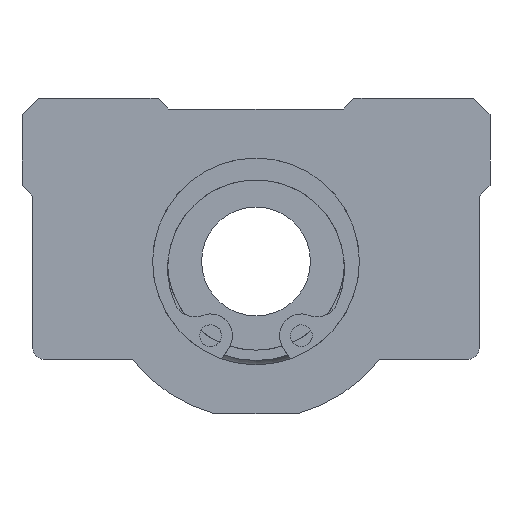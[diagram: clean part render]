
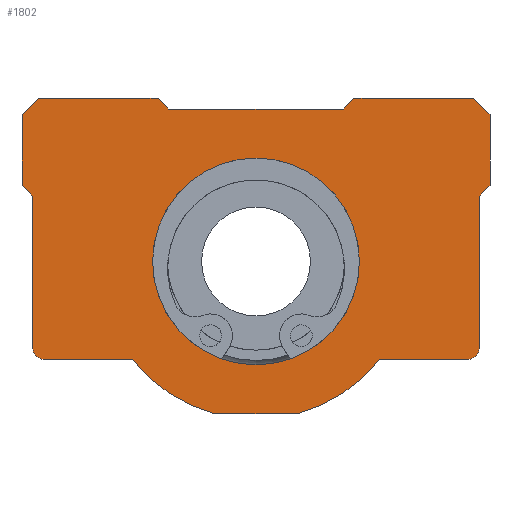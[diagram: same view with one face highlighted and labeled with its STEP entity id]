
A CAD part, left-side view. The second image highlights one B-rep face of the part: STEP entity #1802.
In plain terms, the highlighted planar face has unit normal (-1, 0, 0).
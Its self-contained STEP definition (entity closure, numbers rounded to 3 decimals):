
#1370=CARTESIAN_POINT('',(0.0,19.5,-9.));
#1371=VERTEX_POINT('',#1370);
#1378=CARTESIAN_POINT('',(0.0,20.5,-8.));
#1379=VERTEX_POINT('',#1378);
#1380=CARTESIAN_POINT('',(0.0,19.5,-8.));
#1381=DIRECTION('',(1.,0.0,0.0));
#1382=DIRECTION('',(0.0,0.707,-0.707));
#1383=AXIS2_PLACEMENT_3D('',#1380,#1381,#1382);
#1384=CIRCLE('',#1383,1.);
#1385=EDGE_CURVE('',#1371,#1379,#1384,.T.);
#1410=CARTESIAN_POINT('',(0.0,11.369,-9.));
#1411=VERTEX_POINT('',#1410);
#1418=CARTESIAN_POINT('',(0.0,11.369,-9.));
#1419=DIRECTION('',(0.0,1.0,0.0));
#1420=VECTOR('',#1419,8.131);
#1421=LINE('',#1418,#1420);
#1422=EDGE_CURVE('',#1411,#1371,#1421,.T.);
#1621=CARTESIAN_POINT('',(0.0,-20.5,-8.));
#1622=VERTEX_POINT('',#1621);
#1629=CARTESIAN_POINT('',(0.0,-19.5,-9.));
#1630=VERTEX_POINT('',#1629);
#1631=CARTESIAN_POINT('',(0.0,-19.5,-8.));
#1632=DIRECTION('',(1.0,0.0,0.0));
#1633=DIRECTION('',(0.0,-0.707,-0.707));
#1634=AXIS2_PLACEMENT_3D('',#1631,#1632,#1633);
#1635=CIRCLE('',#1634,1.0);
#1636=EDGE_CURVE('',#1622,#1630,#1635,.T.);
#1647=CARTESIAN_POINT('',(0.0,0.,1.785));
#1648=DIRECTION('',(1.0,0.0,0.0));
#1649=DIRECTION('',(0.0,0.0,-1.0));
#1650=AXIS2_PLACEMENT_3D('',#1647,#1648,#1649);
#1651=PLANE('',#1650);
#1652=ORIENTED_EDGE('',*,*,#1385,.F.);
#1653=ORIENTED_EDGE('',*,*,#1422,.F.);
#1654=CARTESIAN_POINT('',(0.0,3.775,-14.));
#1655=VERTEX_POINT('',#1654);
#1656=CARTESIAN_POINT('',(0.0,0.0,0.0));
#1657=DIRECTION('',(1.0,0.0,0.0));
#1658=DIRECTION('',(0.0,0.26,-0.966));
#1659=AXIS2_PLACEMENT_3D('',#1656,#1657,#1658);
#1660=CIRCLE('',#1659,14.5);
#1661=EDGE_CURVE('',#1655,#1411,#1660,.T.);
#1662=ORIENTED_EDGE('',*,*,#1661,.F.);
#1663=CARTESIAN_POINT('',(0.0,-3.775,-14.));
#1664=VERTEX_POINT('',#1663);
#1665=CARTESIAN_POINT('',(0.0,-3.775,-14.));
#1666=DIRECTION('',(0.0,1.0,0.0));
#1667=VECTOR('',#1666,7.55);
#1668=LINE('',#1665,#1667);
#1669=EDGE_CURVE('',#1664,#1655,#1668,.T.);
#1670=ORIENTED_EDGE('',*,*,#1669,.F.);
#1671=CARTESIAN_POINT('',(0.0,-11.369,-9.));
#1672=VERTEX_POINT('',#1671);
#1673=CARTESIAN_POINT('',(0.0,0.0,0.0));
#1674=DIRECTION('',(1.0,0.0,0.0));
#1675=DIRECTION('',(0.0,0.26,-0.966));
#1676=AXIS2_PLACEMENT_3D('',#1673,#1674,#1675);
#1677=CIRCLE('',#1676,14.5);
#1678=EDGE_CURVE('',#1672,#1664,#1677,.T.);
#1679=ORIENTED_EDGE('',*,*,#1678,.F.);
#1680=CARTESIAN_POINT('',(0.0,-19.5,-9.));
#1681=DIRECTION('',(0.0,1.0,0.0));
#1682=VECTOR('',#1681,8.131);
#1683=LINE('',#1680,#1682);
#1684=EDGE_CURVE('',#1630,#1672,#1683,.T.);
#1685=ORIENTED_EDGE('',*,*,#1684,.F.);
#1686=ORIENTED_EDGE('',*,*,#1636,.F.);
#1687=CARTESIAN_POINT('',(0.0,-20.5,6.));
#1688=VERTEX_POINT('',#1687);
#1689=CARTESIAN_POINT('',(0.0,-20.5,6.));
#1690=DIRECTION('',(0.0,0.0,-1.0));
#1691=VECTOR('',#1690,14.);
#1692=LINE('',#1689,#1691);
#1693=EDGE_CURVE('',#1688,#1622,#1692,.T.);
#1694=ORIENTED_EDGE('',*,*,#1693,.F.);
#1695=CARTESIAN_POINT('',(0.0,-21.5,7.));
#1696=VERTEX_POINT('',#1695);
#1697=CARTESIAN_POINT('',(0.0,-21.5,7.));
#1698=DIRECTION('',(0.0,0.707,-0.707));
#1699=VECTOR('',#1698,1.414);
#1700=LINE('',#1697,#1699);
#1701=EDGE_CURVE('',#1696,#1688,#1700,.T.);
#1702=ORIENTED_EDGE('',*,*,#1701,.F.);
#1703=CARTESIAN_POINT('',(0.0,-21.5,13.5));
#1704=VERTEX_POINT('',#1703);
#1705=CARTESIAN_POINT('',(0.0,-21.5,13.5));
#1706=DIRECTION('',(0.0,0.0,-1.0));
#1707=VECTOR('',#1706,6.5);
#1708=LINE('',#1705,#1707);
#1709=EDGE_CURVE('',#1704,#1696,#1708,.T.);
#1710=ORIENTED_EDGE('',*,*,#1709,.F.);
#1711=CARTESIAN_POINT('',(0.0,-20.,15.));
#1712=VERTEX_POINT('',#1711);
#1713=CARTESIAN_POINT('',(0.0,-20.,15.));
#1714=DIRECTION('',(0.0,-0.707,-0.707));
#1715=VECTOR('',#1714,2.121);
#1716=LINE('',#1713,#1715);
#1717=EDGE_CURVE('',#1712,#1704,#1716,.T.);
#1718=ORIENTED_EDGE('',*,*,#1717,.F.);
#1719=CARTESIAN_POINT('',(0.0,-9.0,15.));
#1720=VERTEX_POINT('',#1719);
#1721=CARTESIAN_POINT('',(0.0,-9.0,15.));
#1722=DIRECTION('',(0.0,-1.0,0.0));
#1723=VECTOR('',#1722,11.);
#1724=LINE('',#1721,#1723);
#1725=EDGE_CURVE('',#1720,#1712,#1724,.T.);
#1726=ORIENTED_EDGE('',*,*,#1725,.F.);
#1727=CARTESIAN_POINT('',(0.0,-8.,14.));
#1728=VERTEX_POINT('',#1727);
#1729=CARTESIAN_POINT('',(0.0,-8.,14.));
#1730=DIRECTION('',(0.0,-0.707,0.707));
#1731=VECTOR('',#1730,1.414);
#1732=LINE('',#1729,#1731);
#1733=EDGE_CURVE('',#1728,#1720,#1732,.T.);
#1734=ORIENTED_EDGE('',*,*,#1733,.F.);
#1735=CARTESIAN_POINT('',(0.0,8.,14.));
#1736=VERTEX_POINT('',#1735);
#1737=CARTESIAN_POINT('',(0.0,8.,14.));
#1738=DIRECTION('',(0.0,-1.0,0.0));
#1739=VECTOR('',#1738,16.);
#1740=LINE('',#1737,#1739);
#1741=EDGE_CURVE('',#1736,#1728,#1740,.T.);
#1742=ORIENTED_EDGE('',*,*,#1741,.F.);
#1743=CARTESIAN_POINT('',(0.0,9.0,15.));
#1744=VERTEX_POINT('',#1743);
#1745=CARTESIAN_POINT('',(0.0,9.0,15.));
#1746=DIRECTION('',(0.0,-0.707,-0.707));
#1747=VECTOR('',#1746,1.414);
#1748=LINE('',#1745,#1747);
#1749=EDGE_CURVE('',#1744,#1736,#1748,.T.);
#1750=ORIENTED_EDGE('',*,*,#1749,.F.);
#1751=CARTESIAN_POINT('',(0.0,20.0,15.));
#1752=VERTEX_POINT('',#1751);
#1753=CARTESIAN_POINT('',(0.0,20.0,15.));
#1754=DIRECTION('',(0.0,-1.0,0.0));
#1755=VECTOR('',#1754,11.0);
#1756=LINE('',#1753,#1755);
#1757=EDGE_CURVE('',#1752,#1744,#1756,.T.);
#1758=ORIENTED_EDGE('',*,*,#1757,.F.);
#1759=CARTESIAN_POINT('',(0.0,21.5,13.5));
#1760=VERTEX_POINT('',#1759);
#1761=CARTESIAN_POINT('',(0.0,21.5,13.5));
#1762=DIRECTION('',(0.0,-0.707,0.707));
#1763=VECTOR('',#1762,2.121);
#1764=LINE('',#1761,#1763);
#1765=EDGE_CURVE('',#1760,#1752,#1764,.T.);
#1766=ORIENTED_EDGE('',*,*,#1765,.F.);
#1767=CARTESIAN_POINT('',(0.0,21.5,7.));
#1768=VERTEX_POINT('',#1767);
#1769=CARTESIAN_POINT('',(0.0,21.5,7.));
#1770=DIRECTION('',(0.0,0.0,1.0));
#1771=VECTOR('',#1770,6.5);
#1772=LINE('',#1769,#1771);
#1773=EDGE_CURVE('',#1768,#1760,#1772,.T.);
#1774=ORIENTED_EDGE('',*,*,#1773,.F.);
#1775=CARTESIAN_POINT('',(0.0,20.5,6.));
#1776=VERTEX_POINT('',#1775);
#1777=CARTESIAN_POINT('',(0.0,20.5,6.));
#1778=DIRECTION('',(0.0,0.707,0.707));
#1779=VECTOR('',#1778,1.414);
#1780=LINE('',#1777,#1779);
#1781=EDGE_CURVE('',#1776,#1768,#1780,.T.);
#1782=ORIENTED_EDGE('',*,*,#1781,.F.);
#1783=CARTESIAN_POINT('',(0.0,20.5,-8.));
#1784=DIRECTION('',(0.0,0.0,1.0));
#1785=VECTOR('',#1784,14.);
#1786=LINE('',#1783,#1785);
#1787=EDGE_CURVE('',#1379,#1776,#1786,.T.);
#1788=ORIENTED_EDGE('',*,*,#1787,.F.);
#1789=EDGE_LOOP('',(#1652,#1653,#1662,#1670,#1679,#1685,#1686,#1694,#1702,#1710,#1718,#1726,#1734,#1742,#1750,#1758,#1766,#1774,#1782,#1788));
#1790=FACE_OUTER_BOUND('',#1789,.T.);
#1791=CARTESIAN_POINT('',(0.0,9.5,0.));
#1792=VERTEX_POINT('',#1791);
#1793=CARTESIAN_POINT('',(0.0,0.0,0.0));
#1794=DIRECTION('',(1.0,0.0,0.0));
#1795=DIRECTION('',(0.0,-1.0,0.0));
#1796=AXIS2_PLACEMENT_3D('',#1793,#1794,#1795);
#1797=CIRCLE('',#1796,9.5);
#1798=EDGE_CURVE('',#1792,#1792,#1797,.T.);
#1799=ORIENTED_EDGE('',*,*,#1798,.T.);
#1800=EDGE_LOOP('',(#1799));
#1801=FACE_BOUND('',#1800,.T.);
#1802=ADVANCED_FACE('',(#1790,#1801),#1651,.F.);
